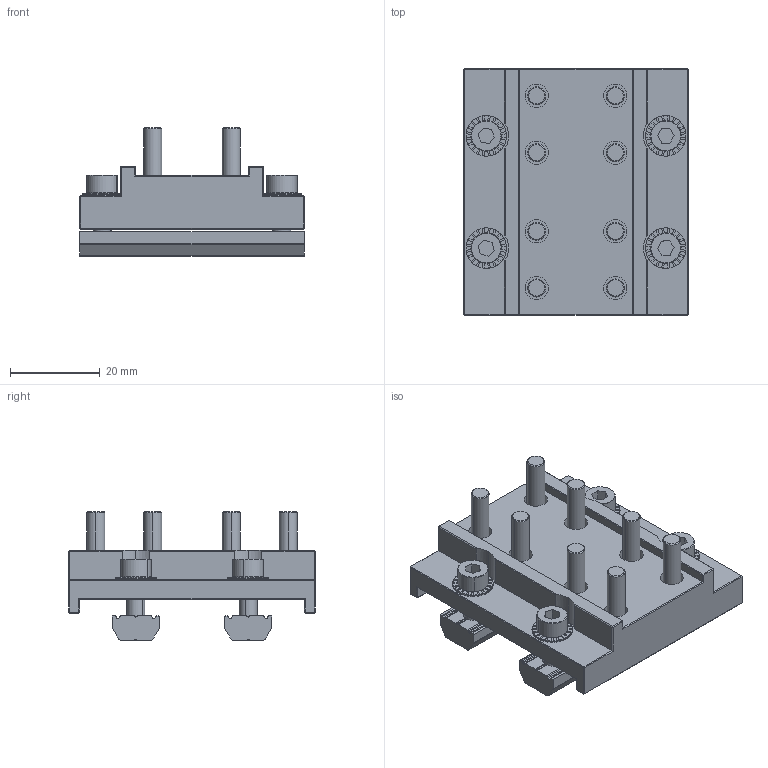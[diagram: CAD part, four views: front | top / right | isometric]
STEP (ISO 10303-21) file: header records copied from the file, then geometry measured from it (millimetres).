
FILE_DESCRIPTION (( 'STEP AP214' ), '1' );
FILE_NAME ('SMBD1-2525T.STEP', '2023-03-03T00:56:34', ( 'Windows User' ), ( 'P R C' ), 'SwSTEP 2.0', 'SolidWorks 2019', '' );
FILE_SCHEMA (( 'AUTOMOTIVE_DESIGN' ));
Length unit declared in the file: millimetre
Products named in the file (5): SMBD1-2550; SMBD1-2525T; PTN-M5P40; PTS-M5; PTC-M4L14
Assembly tree (27 placements, depth 2):
  SMBD1-2525T
    SMBD1-2550
    PTC-M4L14  x12
    PTN-M5P40  x2
    PTS-M5  x12
Bounding box: 50 x 55 x 28.6 mm (x, y, z)
Volume: 26283 mm3; surface area: 18993 mm2
Topology: 27 solids, 27 shells, 2468 faces, 7150 edges, 4732 vertices
Faces by surface type: plane 2184, cylinder 208, cone 76
Entity records: 12971 total; most frequent: CARTESIAN_POINT 2404, DIRECTION 2177, ORIENTED_EDGE 2174, EDGE_CURVE 1087, AXIS2_PLACEMENT_3D 741, VERTEX_POINT 712, LINE 695, VECTOR 695
